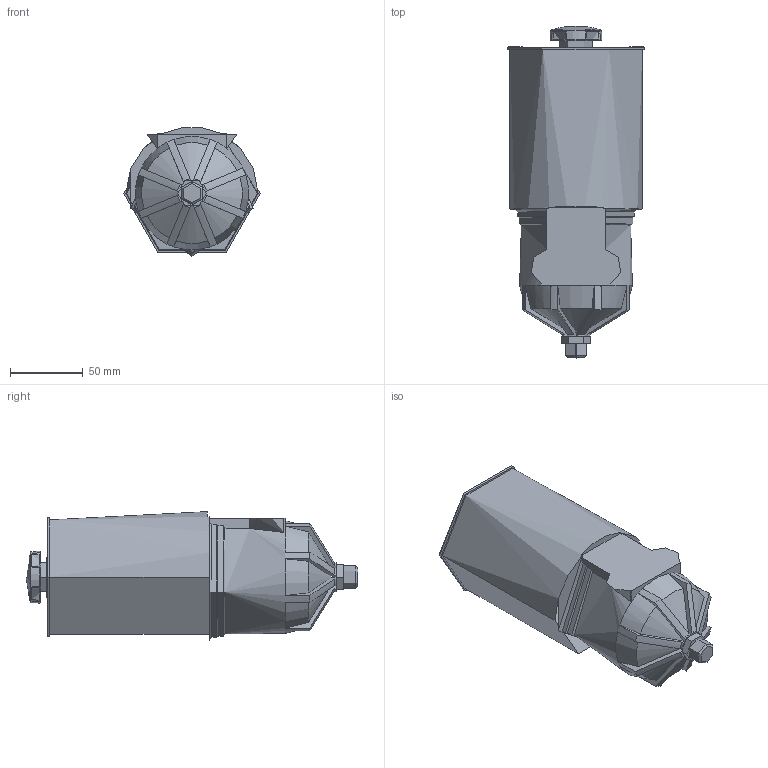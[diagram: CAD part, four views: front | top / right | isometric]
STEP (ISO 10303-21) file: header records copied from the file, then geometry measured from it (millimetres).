
FILE_DESCRIPTION((''),'2;1');
FILE_NAME('OL500','2013-12-12T',('leedb'),(''),'PRO/ENGINEER BY PARAMETRIC TECHNOLOGY CORPORATION, 2010330','PRO/ENGINEER BY PARAMETRIC TECHNOLOGY CORPORATION, 2010330','');
FILE_SCHEMA(('CONFIG_CONTROL_DESIGN'));
Length unit declared in the file: millimetre
Products named in the file (1): OL500
Bounding box: 94 x 228.4 x 88.57 mm (x, y, z)
Topology: 0 solids, 0 shells, 177 faces, 902 edges, 900 vertices
Faces by surface type: bspline 177
Entity records: 24209 total; most frequent: CARTESIAN_POINT 17000, DIRECTION 962, DEFINITIONAL_REPRESENTATION 900, PCURVE 900, COMPOSITE_CURVE_SEGMENT 900, TRIMMED_CURVE 808, VECTOR 654, LINE 654
